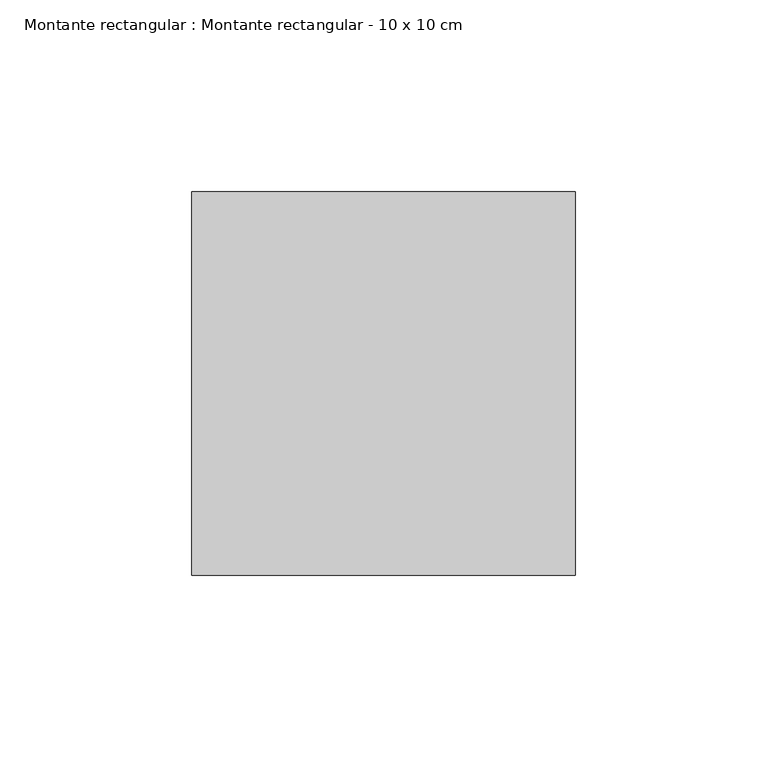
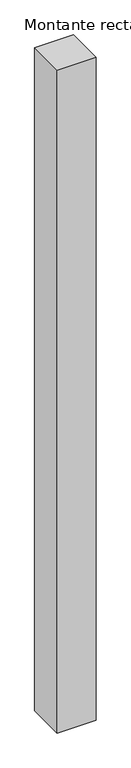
"""IFC4 building model written with IfcOpenShell, lengths in millimetres: member geometry, Montante rectangular : Montante rectangular - 10 x 10 cm."""

from ifc_helpers import new_model, si_unit, frame, origin, place, context, project, spatial, polyline, outline, extrude, source, transform, mapped, element, save


def montante_rectangular_montante_rectangular_10_x_10_cm_829b1a72(model_context):
    return source(origin(), model_context, "Body", "SweptSolid", [
        extrude(outline(polyline([(0.0, -50.0), (-100.0, -50.0), (-100.0, 50.0), (0.0, 50.0), (0.0, -50.0)])), frame((0.0, 0.0, -1800.0), z_axis=(0.0, 0.0, 1.0), x_axis=(1.0, 0.0, 0.0)), (0.0, 0.0, 1.0), 1800.0),
    ])


if __name__ == "__main__":
    model = new_model("IFC4")
    model_context = context("Model", 3, world=origin())
    ifc_project = project(units=[si_unit("LENGTHUNIT", "METRE", prefix="MILLI")], contexts=[model_context])
    site = spatial("IfcSite", under=ifc_project)
    building = spatial("IfcBuilding", under=site)
    placement = place(None, origin())
    montante_rectangular_montante_rectangular_10_x_10_cm_shape = montante_rectangular_montante_rectangular_10_x_10_cm_829b1a72(model_context)
    element("IfcMember", 1, ObjectType="Montante rectangular : Montante rectangular - 10 x 10 cm", at=placement, inside=building, context=model_context, shape_type="MappedRepresentation", body=[
        mapped(montante_rectangular_montante_rectangular_10_x_10_cm_shape, transform((0.0, 0.0, 0.0), x_axis=(1.0, 0.0, 0.0), y_axis=(0.0, 1.0, 0.0), z_axis=(0.0, 0.0, 1.0))),
    ])
    save(model, "model.ifc")
